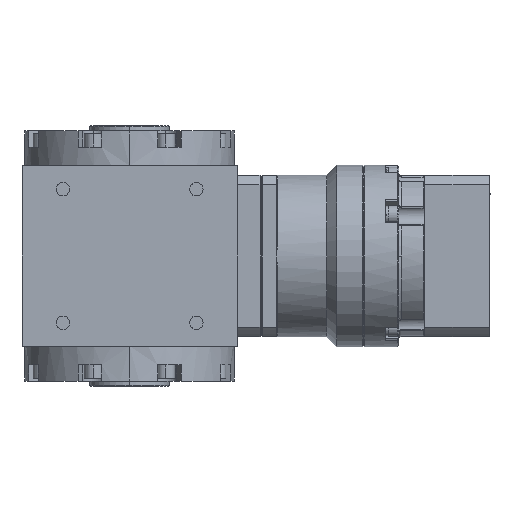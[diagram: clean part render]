
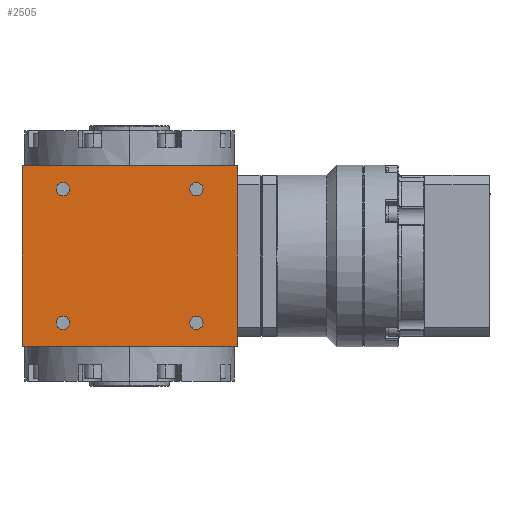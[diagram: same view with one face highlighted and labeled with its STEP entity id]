
A CAD part, left-side view. The second image highlights one B-rep face of the part: STEP entity #2505.
In plain terms, the highlighted planar face has unit normal (-1, 0, 0).
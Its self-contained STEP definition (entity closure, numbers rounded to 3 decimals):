
#543 = DIRECTION ( 'NONE',  ( 0., -1., 0. ) ) ;
#999 = CARTESIAN_POINT ( 'NONE',  ( -40., 0., 33.5 ) ) ;
#1583 = ORIENTED_EDGE ( 'NONE', *, *, #35890, .T. ) ;
#1729 = CIRCLE ( 'NONE', #26297, 2.5 ) ;
#2255 = LINE ( 'NONE', #2691, #32142 ) ;
#2505 = ADVANCED_FACE ( 'NONE', ( #28773, #16046, #22844, #29418, #36255 ), #42900, .T. ) ;
#2691 = CARTESIAN_POINT ( 'NONE',  ( -40., -40., -33.5 ) ) ;
#2719 = CARTESIAN_POINT ( 'NONE',  ( -40., -24.815, 24.815 ) ) ;
#2804 = VERTEX_POINT ( 'NONE', #11518 ) ;
#3386 = DIRECTION ( 'NONE',  ( 1., 0., 0. ) ) ;
#3479 = DIRECTION ( 'NONE',  ( 1., 0., 0. ) ) ;
#3640 = VECTOR ( 'NONE', #543, 1000. ) ;
#3694 = VERTEX_POINT ( 'NONE', #10021 ) ;
#4245 = LINE ( 'NONE', #23349, #16719 ) ;
#5064 = EDGE_LOOP ( 'NONE', ( #39952, #36544 ) ) ;
#5691 = VERTEX_POINT ( 'NONE', #27441 ) ;
#6182 = DIRECTION ( 'NONE',  ( -1., 0., 0. ) ) ;
#6196 = CARTESIAN_POINT ( 'NONE',  ( -40., 27.315, -24.815 ) ) ;
#6301 = EDGE_CURVE ( 'NONE', #5691, #12579, #8358, .T. ) ;
#7125 = DIRECTION ( 'NONE',  ( 0., -1., 0. ) ) ;
#8107 = CARTESIAN_POINT ( 'NONE',  ( -40., 40., -33.5 ) ) ;
#8151 = EDGE_CURVE ( 'NONE', #26142, #3694, #11983, .T. ) ;
#8358 = CIRCLE ( 'NONE', #20912, 2.5 ) ;
#8972 = CIRCLE ( 'NONE', #43416, 2.5 ) ;
#9616 = DIRECTION ( 'NONE',  ( 1., 0., 0. ) ) ;
#9804 = EDGE_LOOP ( 'NONE', ( #28921, #19865 ) ) ;
#10021 = CARTESIAN_POINT ( 'NONE',  ( -40., 27.315, 24.815 ) ) ;
#10043 = LINE ( 'NONE', #999, #3640 ) ;
#10058 = DIRECTION ( 'NONE',  ( 0., -1., 0. ) ) ;
#10098 = VERTEX_POINT ( 'NONE', #28214 ) ;
#10220 = DIRECTION ( 'NONE',  ( 0., -1., 0. ) ) ;
#10498 = EDGE_LOOP ( 'NONE', ( #36533, #1583 ) ) ;
#11111 = CARTESIAN_POINT ( 'NONE',  ( -40., 24.815, -24.815 ) ) ;
#11518 = CARTESIAN_POINT ( 'NONE',  ( -40., -27.315, 24.815 ) ) ;
#11962 = ORIENTED_EDGE ( 'NONE', *, *, #21878, .T. ) ;
#11983 = CIRCLE ( 'NONE', #17467, 2.5 ) ;
#12121 = DIRECTION ( 'NONE',  ( 0., -1., 0. ) ) ;
#12515 = CARTESIAN_POINT ( 'NONE',  ( -40., -40., -33.5 ) ) ;
#12579 = VERTEX_POINT ( 'NONE', #41409 ) ;
#12588 = EDGE_CURVE ( 'NONE', #3694, #26142, #1729, .T. ) ;
#12635 = CARTESIAN_POINT ( 'NONE',  ( -40., -24.815, -24.815 ) ) ;
#12713 = DIRECTION ( 'NONE',  ( 0., 0., 1. ) ) ;
#14528 = CARTESIAN_POINT ( 'NONE',  ( -40., 22.315, 24.815 ) ) ;
#15315 = CIRCLE ( 'NONE', #39925, 2.5 ) ;
#15665 = EDGE_CURVE ( 'NONE', #25037, #10098, #2255, .T. ) ;
#16046 = FACE_BOUND ( 'NONE', #16433, .T. ) ;
#16433 = EDGE_LOOP ( 'NONE', ( #23139, #22953 ) ) ;
#16719 = VECTOR ( 'NONE', #34094, 1000. ) ;
#16819 = AXIS2_PLACEMENT_3D ( 'NONE', #11111, #24490, #27352 ) ;
#16873 = DIRECTION ( 'NONE',  ( 0., -1., 0. ) ) ;
#16983 = CARTESIAN_POINT ( 'NONE',  ( -40., -22.315, 24.815 ) ) ;
#17467 = AXIS2_PLACEMENT_3D ( 'NONE', #19896, #9616, #10058 ) ;
#17739 = CARTESIAN_POINT ( 'NONE',  ( -40., -24.815, -24.815 ) ) ;
#19174 = AXIS2_PLACEMENT_3D ( 'NONE', #17739, #3479, #20576 ) ;
#19865 = ORIENTED_EDGE ( 'NONE', *, *, #22667, .T. ) ;
#19896 = CARTESIAN_POINT ( 'NONE',  ( -40., 24.815, 24.815 ) ) ;
#20576 = DIRECTION ( 'NONE',  ( 0., -1., 0. ) ) ;
#20912 = AXIS2_PLACEMENT_3D ( 'NONE', #12635, #3386, #10220 ) ;
#21085 = ORIENTED_EDGE ( 'NONE', *, *, #43472, .F. ) ;
#21878 = EDGE_CURVE ( 'NONE', #22341, #25037, #4245, .T. ) ;
#22341 = VERTEX_POINT ( 'NONE', #8107 ) ;
#22667 = EDGE_CURVE ( 'NONE', #29856, #42562, #36454, .T. ) ;
#22844 = FACE_BOUND ( 'NONE', #10498, .T. ) ;
#22953 = ORIENTED_EDGE ( 'NONE', *, *, #30458, .T. ) ;
#23013 = CARTESIAN_POINT ( 'NONE',  ( -40., 24.815, -24.815 ) ) ;
#23139 = ORIENTED_EDGE ( 'NONE', *, *, #29009, .T. ) ;
#23146 = VERTEX_POINT ( 'NONE', #16983 ) ;
#23349 = CARTESIAN_POINT ( 'NONE',  ( -40., 40., -33.5 ) ) ;
#23738 = AXIS2_PLACEMENT_3D ( 'NONE', #42119, #27804, #25148 ) ;
#24440 = DIRECTION ( 'NONE',  ( 1., 0., 0. ) ) ;
#24490 = DIRECTION ( 'NONE',  ( 1., 0., 0. ) ) ;
#25037 = VERTEX_POINT ( 'NONE', #12515 ) ;
#25148 = DIRECTION ( 'NONE',  ( 0., -1., 0. ) ) ;
#25703 = CARTESIAN_POINT ( 'NONE',  ( -40., 22.315, -24.815 ) ) ;
#25849 = CIRCLE ( 'NONE', #23738, 2.5 ) ;
#26142 = VERTEX_POINT ( 'NONE', #14528 ) ;
#26297 = AXIS2_PLACEMENT_3D ( 'NONE', #37215, #24440, #7125 ) ;
#26930 = AXIS2_PLACEMENT_3D ( 'NONE', #42249, #6182, #12121 ) ;
#26963 = DIRECTION ( 'NONE',  ( 1., 0., 0. ) ) ;
#27352 = DIRECTION ( 'NONE',  ( 0., -1., 0. ) ) ;
#27441 = CARTESIAN_POINT ( 'NONE',  ( -40., -27.315, -24.815 ) ) ;
#27597 = VECTOR ( 'NONE', #12713, 1000. ) ;
#27804 = DIRECTION ( 'NONE',  ( 1., 0., 0. ) ) ;
#28214 = CARTESIAN_POINT ( 'NONE',  ( -40., -40., 33.5 ) ) ;
#28773 = FACE_BOUND ( 'NONE', #5064, .T. ) ;
#28921 = ORIENTED_EDGE ( 'NONE', *, *, #30184, .T. ) ;
#28948 = CARTESIAN_POINT ( 'NONE',  ( -40., 40., -33.5 ) ) ;
#28990 = CIRCLE ( 'NONE', #19174, 2.5 ) ;
#29009 = EDGE_CURVE ( 'NONE', #2804, #23146, #25849, .T. ) ;
#29418 = FACE_BOUND ( 'NONE', #9804, .T. ) ;
#29856 = VERTEX_POINT ( 'NONE', #6196 ) ;
#30004 = VERTEX_POINT ( 'NONE', #42209 ) ;
#30184 = EDGE_CURVE ( 'NONE', #42562, #29856, #8972, .T. ) ;
#30458 = EDGE_CURVE ( 'NONE', #23146, #2804, #15315, .T. ) ;
#32142 = VECTOR ( 'NONE', #38979, 1000. ) ;
#33032 = DIRECTION ( 'NONE',  ( 0., -1., 0. ) ) ;
#34094 = DIRECTION ( 'NONE',  ( 0., -1., 0. ) ) ;
#34230 = ORIENTED_EDGE ( 'NONE', *, *, #37497, .F. ) ;
#34773 = ORIENTED_EDGE ( 'NONE', *, *, #15665, .T. ) ;
#35890 = EDGE_CURVE ( 'NONE', #12579, #5691, #28990, .T. ) ;
#36255 = FACE_OUTER_BOUND ( 'NONE', #37801, .T. ) ;
#36454 = CIRCLE ( 'NONE', #16819, 2.5 ) ;
#36533 = ORIENTED_EDGE ( 'NONE', *, *, #6301, .T. ) ;
#36544 = ORIENTED_EDGE ( 'NONE', *, *, #12588, .T. ) ;
#37215 = CARTESIAN_POINT ( 'NONE',  ( -40., 24.815, 24.815 ) ) ;
#37497 = EDGE_CURVE ( 'NONE', #22341, #30004, #41552, .T. ) ;
#37801 = EDGE_LOOP ( 'NONE', ( #34773, #21085, #34230, #11962 ) ) ;
#38979 = DIRECTION ( 'NONE',  ( 0., 0., 1. ) ) ;
#39925 = AXIS2_PLACEMENT_3D ( 'NONE', #2719, #43198, #33032 ) ;
#39952 = ORIENTED_EDGE ( 'NONE', *, *, #8151, .T. ) ;
#41409 = CARTESIAN_POINT ( 'NONE',  ( -40., -22.315, -24.815 ) ) ;
#41552 = LINE ( 'NONE', #28948, #27597 ) ;
#42119 = CARTESIAN_POINT ( 'NONE',  ( -40., -24.815, 24.815 ) ) ;
#42209 = CARTESIAN_POINT ( 'NONE',  ( -40., 40., 33.5 ) ) ;
#42249 = CARTESIAN_POINT ( 'NONE',  ( -40., 40., -33.5 ) ) ;
#42562 = VERTEX_POINT ( 'NONE', #25703 ) ;
#42900 = PLANE ( 'NONE',  #26930 ) ;
#43198 = DIRECTION ( 'NONE',  ( 1., 0., 0. ) ) ;
#43416 = AXIS2_PLACEMENT_3D ( 'NONE', #23013, #26963, #16873 ) ;
#43472 = EDGE_CURVE ( 'NONE', #30004, #10098, #10043, .T. ) ;
